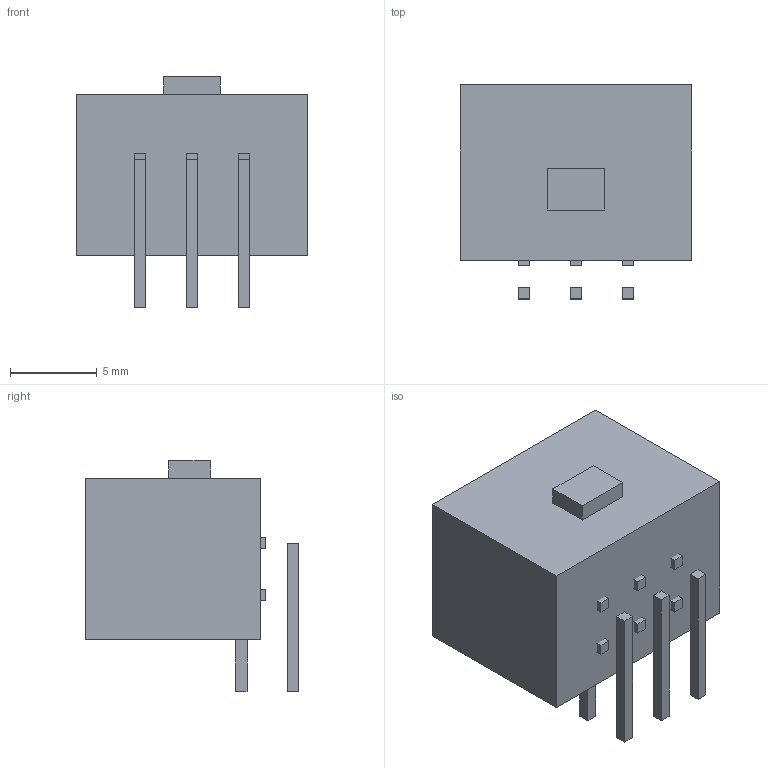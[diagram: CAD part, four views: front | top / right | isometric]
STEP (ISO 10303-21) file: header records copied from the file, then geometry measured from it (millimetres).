
FILE_DESCRIPTION(('Open CASCADE Model'),'2;1');
FILE_NAME('Open CASCADE Shape Model','2026-10-31T16:56:42',('Author'),( 'Open CASCADE'),'Open CASCADE STEP processor 7.9','Open CASCADE 7.9' ,'Unknown');
FILE_SCHEMA(('AUTOMOTIVE_DESIGN { 1 0 10303 214 1 1 1 1 }'));
Length unit declared in the file: millimetre
Products named in the file (8): MicroFit_6_visual; black_shroud; contact_1; contact_2; contact_3; contact_4; contact_5; contact_6
Assembly tree (7 placements, depth 2):
  MicroFit_6_visual
    black_shroud
    contact_1
    contact_2
    contact_3
    contact_4
    contact_5
    contact_6
Bounding box: 13.37 x 12.36 x 13.3 mm (x, y, z)
Volume: 1031.7 mm3; surface area: 1405 mm2
Topology: 10 solids, 10 shells, 107 faces, 240 edges, 160 vertices
Faces by surface type: plane 107
Entity records: 6171 total; most frequent: CARTESIAN_POINT 1055, DIRECTION 890, LINE 660, VECTOR 660, ORIENTED_EDGE 480, PCURVE 480, DEFINITIONAL_REPRESENTATION 480, EDGE_CURVE 240
